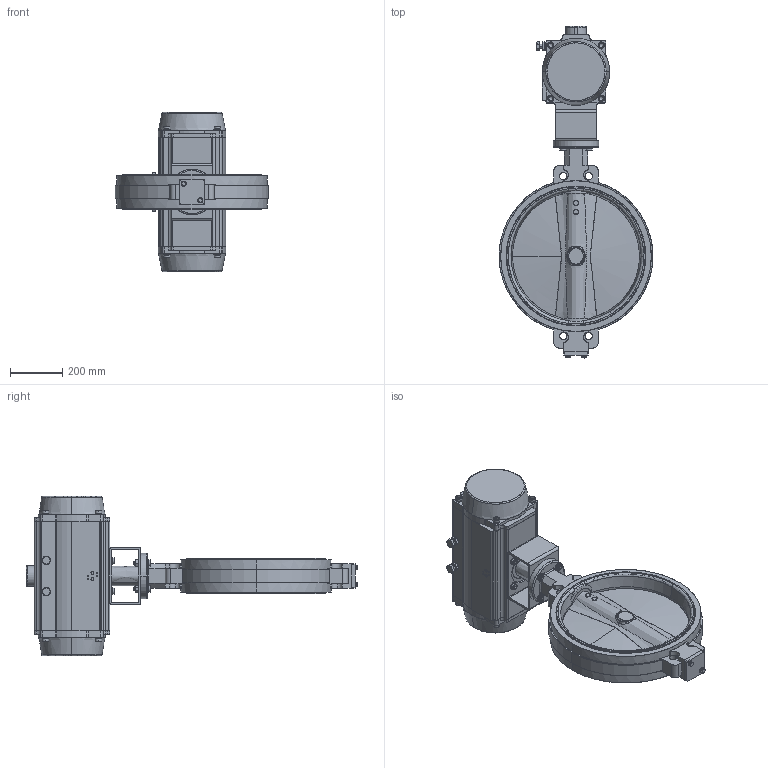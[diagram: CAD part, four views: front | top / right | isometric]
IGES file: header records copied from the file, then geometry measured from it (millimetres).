
Start section: SolidWorks IGES file using analytic representation for surfaces
Global section: file name: \\Svr-plm-be\BE\BE BIBLIOTHEQUE 3D\BE SECTION 01 - ROBINETS A PAPILLON_VANNES PASSAGE DIRECTE\VP - Vanne Papillon\VPE\WORLDVALVE\WAFER\TECLARGE\VPE440X-N03\PN10\DN500\VPE4408-N03EP0500.IGS; native system: SolidWorks 2017; preprocessor: SolidWorks 2017; author: k.gigout; date: 200817.134343; units: millimetre
Bounding box: 590 x 1274.1 x 612 mm (x, y, z)
Surface area: 2596543.1 mm2 (no closed solid volume)
Topology: 0 solids, 0 shells, 796 faces, 16195 edges, 16181 vertices
Faces by surface type: bspline 415, revolution 381
